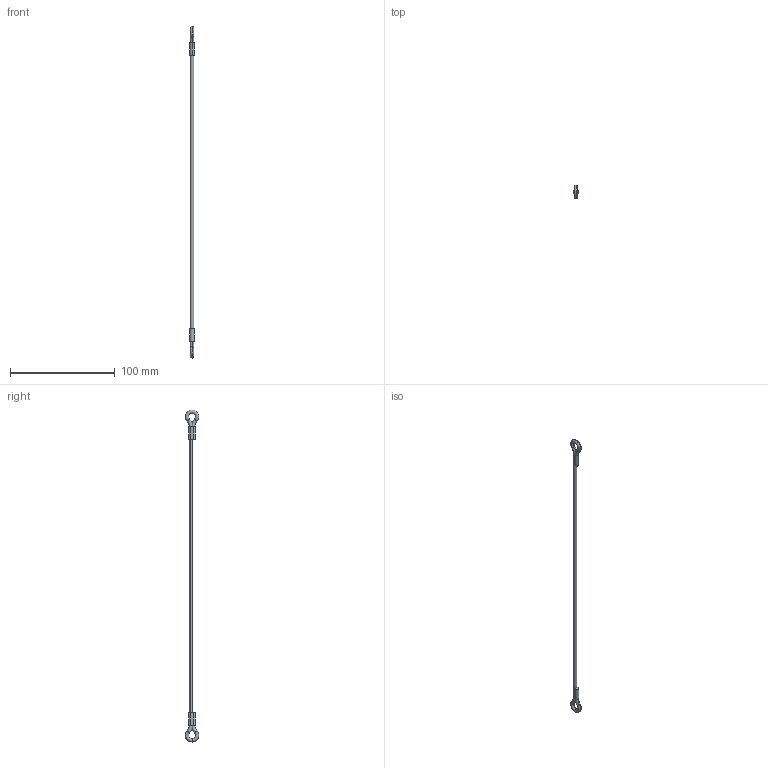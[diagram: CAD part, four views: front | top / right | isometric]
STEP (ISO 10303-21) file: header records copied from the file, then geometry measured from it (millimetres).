
FILE_DESCRIPTION (( 'STEP AP203' ), '1' );
FILE_NAME ('LA1065.I06-304B1.step', '2026-03-23T15:45:30', ( '' ), ( '' ), 'SwSTEP 2.0', 'SolidWorks 2019', '' );
FILE_SCHEMA (( 'CONFIG_CONTROL_DESIGN' ));
Length unit declared in the file: millimetre
Products named in the file (1): LA1065.I06-304B1
Bounding box: 3.99 x 12.77 x 317.56 mm (x, y, z)
Volume: 3162.9 mm3; surface area: 3761 mm2
Topology: 1 solids, 1 shells, 30 faces, 72 edges, 44 vertices
Faces by surface type: torus 14, cylinder 8, plane 8
Entity records: 1025 total; most frequent: CARTESIAN_POINT 207, DIRECTION 178, ORIENTED_EDGE 144, AXIS2_PLACEMENT_3D 79, EDGE_CURVE 72, CIRCLE 48, VERTEX_POINT 44, EDGE_LOOP 34
